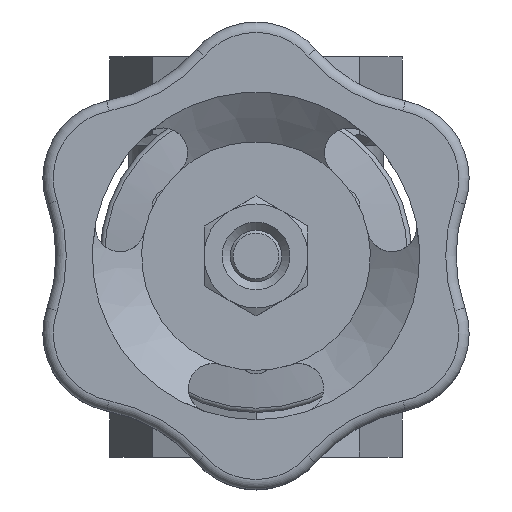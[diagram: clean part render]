
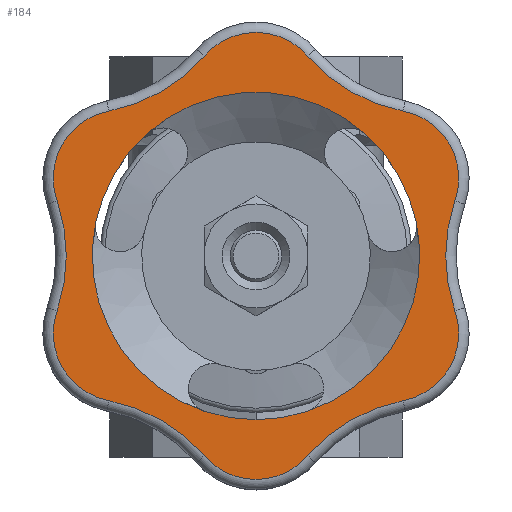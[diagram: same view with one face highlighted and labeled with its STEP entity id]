
A CAD part, top view. The second image highlights one B-rep face of the part: STEP entity #184.
In plain terms, the highlighted planar face has unit normal (0, 0, 1).
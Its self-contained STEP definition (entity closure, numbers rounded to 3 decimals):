
#184=ADVANCED_FACE('',(#1440,#1442),#1444,.T.);
#1440=FACE_BOUND('',#1441,.T.);
#1441=EDGE_LOOP('',(#4497,#4498,#4499,#4500,#4501,#4502,#4503,#4504,#4505,#4506,
#4507,#4508));
#1442=FACE_BOUND('',#1443,.T.);
#1443=EDGE_LOOP('',(#4509,#4510,#4511,#4512,#4513,#4514));
#1444=PLANE('',#1445);
#1445=AXIS2_PLACEMENT_3D('',#1446,#1447,#1448);
#1446=CARTESIAN_POINT('',(0.,0.,64.8));
#1447=DIRECTION('',(0.,0.,1.));
#1448=DIRECTION('',(0.,-1.,0.));
#4497=ORIENTED_EDGE('',*,*,#7066,.T.);
#4498=ORIENTED_EDGE('',*,*,#7067,.T.);
#4499=ORIENTED_EDGE('',*,*,#7068,.T.);
#4500=ORIENTED_EDGE('',*,*,#7069,.T.);
#4501=ORIENTED_EDGE('',*,*,#7070,.T.);
#4502=ORIENTED_EDGE('',*,*,#7071,.T.);
#4503=ORIENTED_EDGE('',*,*,#7072,.T.);
#4504=ORIENTED_EDGE('',*,*,#7073,.T.);
#4505=ORIENTED_EDGE('',*,*,#7074,.T.);
#4506=ORIENTED_EDGE('',*,*,#7075,.T.);
#4507=ORIENTED_EDGE('',*,*,#7076,.T.);
#4508=ORIENTED_EDGE('',*,*,#7077,.T.);
#4509=ORIENTED_EDGE('',*,*,#7019,.T.);
#4510=ORIENTED_EDGE('',*,*,#7018,.T.);
#4511=ORIENTED_EDGE('',*,*,#7033,.T.);
#4512=ORIENTED_EDGE('',*,*,#7034,.T.);
#4513=ORIENTED_EDGE('',*,*,#7020,.T.);
#4514=ORIENTED_EDGE('',*,*,#7035,.T.);
#7018=EDGE_CURVE('',#8410,#8429,#8486,.F.);
#7019=EDGE_CURVE('',#8450,#8410,#8487,.F.);
#7020=EDGE_CURVE('',#8439,#8447,#8488,.F.);
#7033=EDGE_CURVE('',#8429,#8436,#8513,.F.);
#7034=EDGE_CURVE('',#8436,#8439,#8514,.F.);
#7035=EDGE_CURVE('',#8447,#8450,#8515,.F.);
#7066=EDGE_CURVE('',#8564,#8565,#8566,.T.);
#7067=EDGE_CURVE('',#8565,#8567,#8568,.T.);
#7068=EDGE_CURVE('',#8567,#8569,#8570,.T.);
#7069=EDGE_CURVE('',#8569,#8571,#8572,.T.);
#7070=EDGE_CURVE('',#8571,#8573,#8574,.T.);
#7071=EDGE_CURVE('',#8573,#8575,#8576,.T.);
#7072=EDGE_CURVE('',#8575,#8577,#8578,.T.);
#7073=EDGE_CURVE('',#8577,#8579,#8580,.T.);
#7074=EDGE_CURVE('',#8579,#8581,#8582,.T.);
#7075=EDGE_CURVE('',#8581,#8583,#8584,.T.);
#7076=EDGE_CURVE('',#8583,#8585,#8586,.T.);
#7077=EDGE_CURVE('',#8585,#8564,#8587,.T.);
#8410=VERTEX_POINT('',#11555);
#8429=VERTEX_POINT('',#11969);
#8436=VERTEX_POINT('',#12066);
#8439=VERTEX_POINT('',#12123);
#8447=VERTEX_POINT('',#12196);
#8450=VERTEX_POINT('',#12255);
#8486=CIRCLE('',#12714,15.75);
#8487=CIRCLE('',#12718,15.75);
#8488=CIRCLE('',#12722,15.75);
#8513=CIRCLE('',#12786,15.75);
#8514=CIRCLE('',#12790,15.75);
#8515=CIRCLE('',#12794,15.75);
#8564=VERTEX_POINT('',#13605);
#8565=VERTEX_POINT('',#13606);
#8566=CIRCLE('',#13607,6.586);
#8567=VERTEX_POINT('',#13611);
#8568=CIRCLE('',#13612,16.171);
#8569=VERTEX_POINT('',#13616);
#8570=CIRCLE('',#13617,6.586);
#8571=VERTEX_POINT('',#13621);
#8572=CIRCLE('',#13622,16.171);
#8573=VERTEX_POINT('',#13626);
#8574=CIRCLE('',#13627,6.586);
#8575=VERTEX_POINT('',#13631);
#8576=CIRCLE('',#13632,16.171);
#8577=VERTEX_POINT('',#13636);
#8578=CIRCLE('',#13637,6.586);
#8579=VERTEX_POINT('',#13641);
#8580=CIRCLE('',#13642,16.171);
#8581=VERTEX_POINT('',#13646);
#8582=CIRCLE('',#13647,6.586);
#8583=VERTEX_POINT('',#13651);
#8584=CIRCLE('',#13652,16.171);
#8585=VERTEX_POINT('',#13656);
#8586=CIRCLE('',#13657,6.586);
#8587=CIRCLE('',#13661,16.171);
#11555=CARTESIAN_POINT('',(15.404,3.281,64.8));
#11969=CARTESIAN_POINT('',(4.86,-14.981,64.8));
#12066=CARTESIAN_POINT('',(-4.86,-14.981,64.8));
#12123=CARTESIAN_POINT('',(-15.404,3.281,64.8));
#12196=CARTESIAN_POINT('',(-10.544,11.7,64.8));
#12255=CARTESIAN_POINT('',(10.544,11.7,64.8));
#12714=AXIS2_PLACEMENT_3D('',#12715,#12716,#12717);
#12715=CARTESIAN_POINT('',(0.,0.,64.8));
#12716=DIRECTION('',(0.,0.,1.));
#12717=DIRECTION('',(0.309,-0.951,0.));
#12718=AXIS2_PLACEMENT_3D('',#12719,#12720,#12721);
#12719=CARTESIAN_POINT('',(0.,0.,64.8));
#12720=DIRECTION('',(0.,0.,1.));
#12721=DIRECTION('',(0.978,0.208,0.));
#12722=AXIS2_PLACEMENT_3D('',#12723,#12724,#12725);
#12723=CARTESIAN_POINT('',(0.,0.,64.8));
#12724=DIRECTION('',(0.,0.,1.));
#12725=DIRECTION('',(-0.669,0.743,0.));
#12786=AXIS2_PLACEMENT_3D('',#12787,#12788,#12789);
#12787=CARTESIAN_POINT('',(0.,0.,64.8));
#12788=DIRECTION('',(0.,0.,1.));
#12789=DIRECTION('',(-0.309,-0.951,0.));
#12790=AXIS2_PLACEMENT_3D('',#12791,#12792,#12793);
#12791=CARTESIAN_POINT('',(0.,0.,64.8));
#12792=DIRECTION('',(0.,0.,1.));
#12793=DIRECTION('',(-0.978,0.208,0.));
#12794=AXIS2_PLACEMENT_3D('',#12795,#12796,#12797);
#12795=CARTESIAN_POINT('',(0.,0.,64.8));
#12796=DIRECTION('',(0.,0.,1.));
#12797=DIRECTION('',(0.669,0.743,0.));
#13605=CARTESIAN_POINT('',(14.161,-13.927,64.8));
#13606=CARTESIAN_POINT('',(19.141,-5.301,64.8));
#13607=AXIS2_PLACEMENT_3D('',#13608,#13609,#13610);
#13608=CARTESIAN_POINT('',(12.92,-7.459,64.8));
#13609=DIRECTION('',(0.,0.,1.));
#13610=DIRECTION('',(0.189,-0.982,0.));
#13611=CARTESIAN_POINT('',(19.141,5.301,64.8));
#13612=AXIS2_PLACEMENT_3D('',#13613,#13614,#13615);
#13613=CARTESIAN_POINT('',(34.419,0.,64.8));
#13614=DIRECTION('',(0.,0.,-1.));
#13615=DIRECTION('',(-0.945,-0.328,0.));
#13616=CARTESIAN_POINT('',(14.161,13.927,64.8));
#13617=AXIS2_PLACEMENT_3D('',#13618,#13619,#13620);
#13618=CARTESIAN_POINT('',(12.92,7.459,64.8));
#13619=DIRECTION('',(0.,0.,1.));
#13620=DIRECTION('',(0.945,-0.328,0.));
#13621=CARTESIAN_POINT('',(4.98,19.227,64.8));
#13622=AXIS2_PLACEMENT_3D('',#13623,#13624,#13625);
#13623=CARTESIAN_POINT('',(17.21,29.808,64.8));
#13624=DIRECTION('',(0.,0.,-1.));
#13625=DIRECTION('',(-0.189,-0.982,0.));
#13626=CARTESIAN_POINT('',(-4.98,19.227,64.8));
#13627=AXIS2_PLACEMENT_3D('',#13628,#13629,#13630);
#13628=CARTESIAN_POINT('',(0.,14.918,64.8));
#13629=DIRECTION('',(0.,0.,1.));
#13630=DIRECTION('',(0.756,0.654,0.));
#13631=CARTESIAN_POINT('',(-14.161,13.927,64.8));
#13632=AXIS2_PLACEMENT_3D('',#13633,#13634,#13635);
#13633=CARTESIAN_POINT('',(-17.21,29.808,64.8));
#13634=DIRECTION('',(0.,0.,-1.));
#13635=DIRECTION('',(0.756,-0.654,0.));
#13636=CARTESIAN_POINT('',(-19.141,5.301,64.8));
#13637=AXIS2_PLACEMENT_3D('',#13638,#13639,#13640);
#13638=CARTESIAN_POINT('',(-12.92,7.459,64.8));
#13639=DIRECTION('',(0.,0.,1.));
#13640=DIRECTION('',(-0.189,0.982,0.));
#13641=CARTESIAN_POINT('',(-19.141,-5.301,64.8));
#13642=AXIS2_PLACEMENT_3D('',#13643,#13644,#13645);
#13643=CARTESIAN_POINT('',(-34.419,0.,64.8));
#13644=DIRECTION('',(0.,0.,-1.));
#13645=DIRECTION('',(0.945,0.328,0.));
#13646=CARTESIAN_POINT('',(-14.161,-13.927,64.8));
#13647=AXIS2_PLACEMENT_3D('',#13648,#13649,#13650);
#13648=CARTESIAN_POINT('',(-12.92,-7.459,64.8));
#13649=DIRECTION('',(0.,0.,1.));
#13650=DIRECTION('',(-0.945,0.328,0.));
#13651=CARTESIAN_POINT('',(-4.98,-19.227,64.8));
#13652=AXIS2_PLACEMENT_3D('',#13653,#13654,#13655);
#13653=CARTESIAN_POINT('',(-17.21,-29.808,64.8));
#13654=DIRECTION('',(0.,0.,-1.));
#13655=DIRECTION('',(0.189,0.982,0.));
#13656=CARTESIAN_POINT('',(4.98,-19.227,64.8));
#13657=AXIS2_PLACEMENT_3D('',#13658,#13659,#13660);
#13658=CARTESIAN_POINT('',(0.,-14.918,64.8));
#13659=DIRECTION('',(0.,0.,1.));
#13660=DIRECTION('',(-0.756,-0.654,0.));
#13661=AXIS2_PLACEMENT_3D('',#13662,#13663,#13664);
#13662=CARTESIAN_POINT('',(17.21,-29.808,64.8));
#13663=DIRECTION('',(0.,0.,-1.));
#13664=DIRECTION('',(-0.756,0.654,0.));
